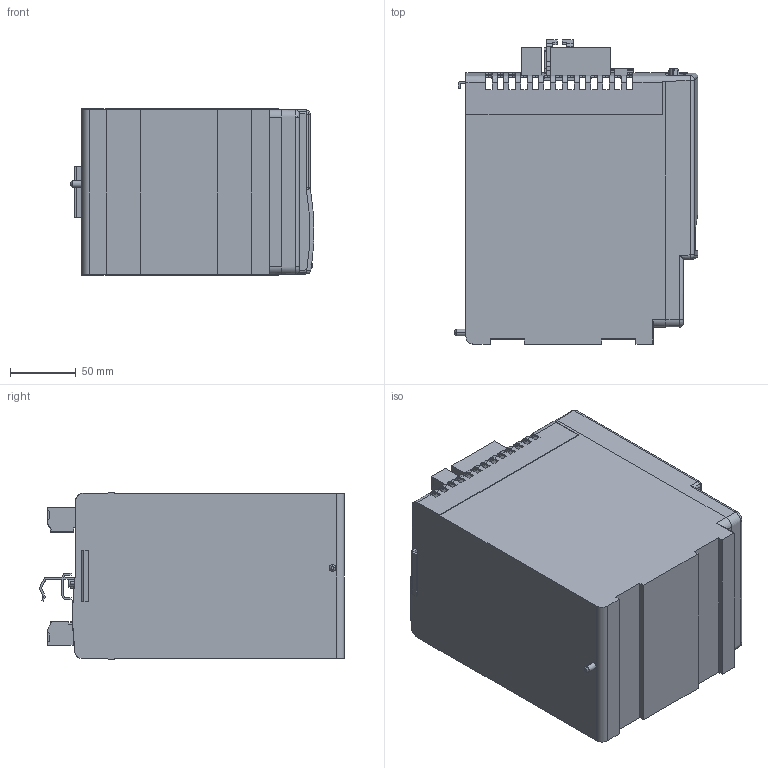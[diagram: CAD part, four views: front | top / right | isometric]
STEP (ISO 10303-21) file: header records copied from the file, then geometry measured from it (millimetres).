
FILE_DESCRIPTION (( 'STEP AP214' ), '1' );
FILE_NAME ('Rockwell Automation-2094-XX-2094-AC05-M01-S.STEP', '2012-03-01T15:14:55', ( 'sysAdmin' ), ( 'SolidWorks' ), 'SwSTEP 2.0', 'SolidWorks 2012', '' );
FILE_SCHEMA (( 'AUTOMOTIVE_DESIGN' ));
Length unit declared in the file: millimetre
Products named in the file (1): Rockwell Automation-2094-XX-2094-AC05-M01-S
Bounding box: 184.96 x 230.99 x 126.04 mm (x, y, z)
Volume: 310989.3 mm3; surface area: 341110.4 mm2
Topology: 2 solids, 2 shells, 1905 faces, 5183 edges, 3433 vertices
Faces by surface type: plane 1116, cylinder 483, bspline 262, torus 29, cone 13, sphere 2
Entity records: 81137 total; most frequent: CARTESIAN_POINT 28185, ORIENTED_EDGE 10366, DIRECTION 8658, EDGE_CURVE 5183, VERTEX_POINT 3433, VECTOR 3340, LINE 3340, AXIS2_PLACEMENT_3D 2659
